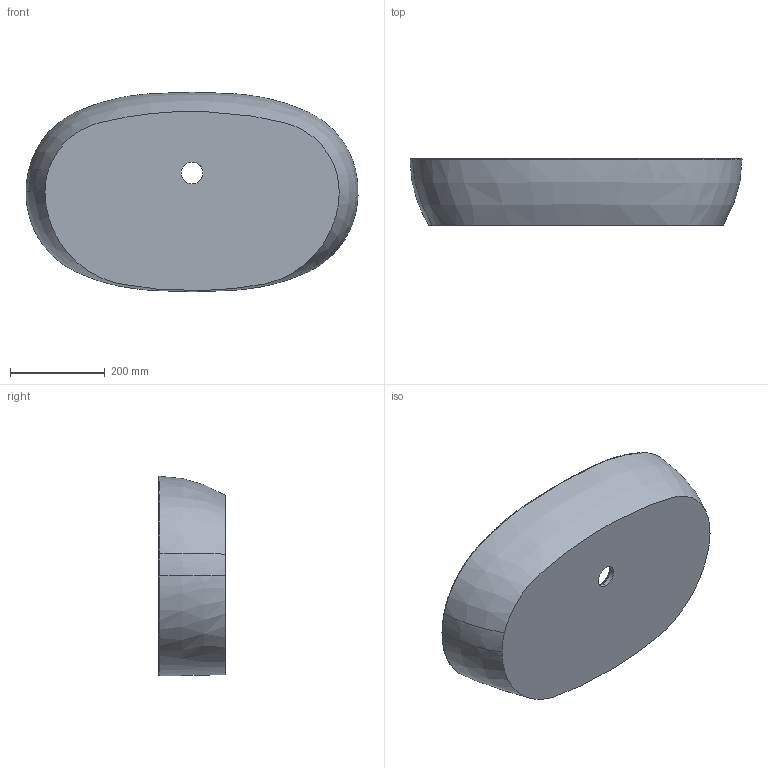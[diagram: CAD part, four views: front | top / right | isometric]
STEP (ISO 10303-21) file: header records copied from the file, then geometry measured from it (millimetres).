
FILE_DESCRIPTION(/* description */ (''),/* implementation_level */ '2;1');
FILE_NAME(/* name */ 'ECI70M',/* time_stamp */ '2017-12-11T12:24:28+01:00',/* author */ (''),/* organization */ (''),/* preprocessor_version */ 'ST-DEVELOPER v15',/* originating_system */ '',/* authorisation */ '');
FILE_SCHEMA (('AUTOMOTIVE_DESIGN'));
Length unit declared in the file: millimetre
Products named in the file (1): Document
Bounding box: 699.69 x 140 x 419.99 mm (x, y, z)
Surface area: 800974.1 mm2 (no closed solid volume)
Topology: 0 solids, 3 shells, 45 faces, 126 edges, 89 vertices
Faces by surface type: bspline 40, plane 5
Entity records: 8698 total; most frequent: CARTESIAN_POINT 8032, ORIENTED_EDGE 226, EDGE_CURVE 118, VERTEX_POINT 73, EDGE_LOOP 48, ADVANCED_FACE 45, FACE_OUTER_BOUND 45, B_SPLINE_CURVE_WITH_KNOTS 40
